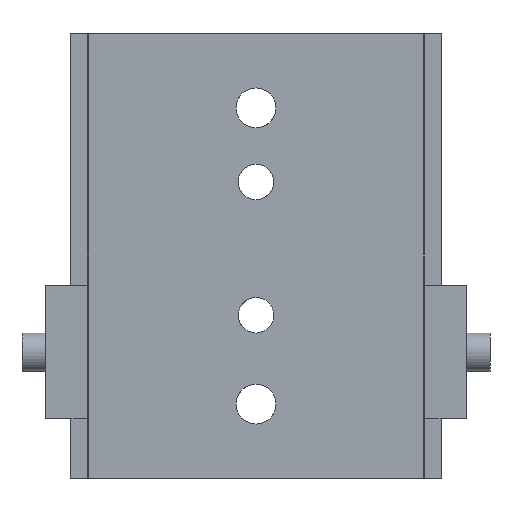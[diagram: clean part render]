
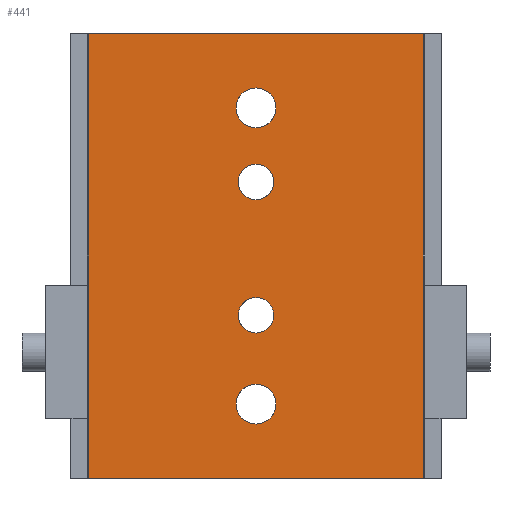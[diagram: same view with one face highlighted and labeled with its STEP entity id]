
A CAD part, front view. The second image highlights one B-rep face of the part: STEP entity #441.
In plain terms, the highlighted planar face has unit normal (0, -1, 0).
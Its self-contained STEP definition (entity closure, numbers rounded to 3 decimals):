
#77=CARTESIAN_POINT('Vertex',(-590.473,748.188,31.75)) ;
#80=CARTESIAN_POINT('Axis2P3D Location',(-590.473,748.188,25.)) ;
#84=CARTESIAN_POINT('Vertex',(-597.223,748.188,25.)) ;
#87=CARTESIAN_POINT('Axis2P3D Location',(-590.473,748.188,25.)) ;
#91=CARTESIAN_POINT('Vertex',(-590.473,748.188,18.25)) ;
#273=CARTESIAN_POINT('Axis2P3D Location',(-590.473,748.188,25.)) ;
#277=CARTESIAN_POINT('Vertex',(-583.723,748.188,25.)) ;
#280=CARTESIAN_POINT('Axis2P3D Location',(-590.473,748.188,25.)) ;
#294=CARTESIAN_POINT('Axis2P3D Location',(-646.973,748.188,150.)) ;
#299=CARTESIAN_POINT('Line Origine',(-590.473,748.188,0.)) ;
#303=CARTESIAN_POINT('Vertex',(-646.973,748.188,0.)) ;
#305=CARTESIAN_POINT('Vertex',(-533.973,748.188,0.)) ;
#308=CARTESIAN_POINT('Line Origine',(-533.973,748.188,75.)) ;
#312=CARTESIAN_POINT('Vertex',(-533.973,748.188,150.)) ;
#315=CARTESIAN_POINT('Line Origine',(-590.473,748.188,150.)) ;
#319=CARTESIAN_POINT('Vertex',(-646.973,748.188,150.)) ;
#322=CARTESIAN_POINT('Line Origine',(-646.973,748.188,75.)) ;
#333=CARTESIAN_POINT('Axis2P3D Location',(-590.473,748.188,100.)) ;
#337=CARTESIAN_POINT('Vertex',(-584.473,748.188,100.)) ;
#339=CARTESIAN_POINT('Vertex',(-590.473,748.188,94.)) ;
#342=CARTESIAN_POINT('Axis2P3D Location',(-590.473,748.188,100.)) ;
#346=CARTESIAN_POINT('Vertex',(-596.473,748.188,100.)) ;
#349=CARTESIAN_POINT('Axis2P3D Location',(-590.473,748.188,100.)) ;
#353=CARTESIAN_POINT('Vertex',(-590.473,748.188,106.)) ;
#356=CARTESIAN_POINT('Axis2P3D Location',(-590.473,748.188,100.)) ;
#367=CARTESIAN_POINT('Axis2P3D Location',(-590.473,748.188,55.)) ;
#371=CARTESIAN_POINT('Vertex',(-584.473,748.188,55.)) ;
#373=CARTESIAN_POINT('Vertex',(-590.473,748.188,49.)) ;
#376=CARTESIAN_POINT('Axis2P3D Location',(-590.473,748.188,55.)) ;
#380=CARTESIAN_POINT('Vertex',(-596.473,748.188,55.)) ;
#383=CARTESIAN_POINT('Axis2P3D Location',(-590.473,748.188,55.)) ;
#387=CARTESIAN_POINT('Vertex',(-590.473,748.188,61.)) ;
#390=CARTESIAN_POINT('Axis2P3D Location',(-590.473,748.188,55.)) ;
#401=CARTESIAN_POINT('Axis2P3D Location',(-590.473,748.188,125.)) ;
#405=CARTESIAN_POINT('Vertex',(-583.723,748.188,125.)) ;
#407=CARTESIAN_POINT('Vertex',(-590.473,748.188,118.25)) ;
#410=CARTESIAN_POINT('Axis2P3D Location',(-590.473,748.188,125.)) ;
#414=CARTESIAN_POINT('Vertex',(-597.223,748.188,125.)) ;
#417=CARTESIAN_POINT('Axis2P3D Location',(-590.473,748.188,125.)) ;
#421=CARTESIAN_POINT('Vertex',(-590.473,748.188,131.75)) ;
#424=CARTESIAN_POINT('Axis2P3D Location',(-590.473,748.188,125.)) ;
#81=DIRECTION('Axis2P3D Direction',(0.,-1.,0.)) ;
#88=DIRECTION('Axis2P3D Direction',(0.,-1.,0.)) ;
#274=DIRECTION('Axis2P3D Direction',(0.,-1.,0.)) ;
#281=DIRECTION('Axis2P3D Direction',(0.,-1.,0.)) ;
#295=DIRECTION('Axis2P3D Direction',(0.,1.,0.)) ;
#296=DIRECTION('Axis2P3D XDirection',(0.,-0.,1.)) ;
#300=DIRECTION('Vector Direction',(1.,0.,0.)) ;
#309=DIRECTION('Vector Direction',(0.,0.,-1.)) ;
#316=DIRECTION('Vector Direction',(1.,0.,0.)) ;
#323=DIRECTION('Vector Direction',(0.,0.,-1.)) ;
#334=DIRECTION('Axis2P3D Direction',(0.,1.,0.)) ;
#343=DIRECTION('Axis2P3D Direction',(0.,1.,0.)) ;
#350=DIRECTION('Axis2P3D Direction',(0.,1.,0.)) ;
#357=DIRECTION('Axis2P3D Direction',(0.,1.,0.)) ;
#368=DIRECTION('Axis2P3D Direction',(0.,1.,0.)) ;
#377=DIRECTION('Axis2P3D Direction',(0.,1.,0.)) ;
#384=DIRECTION('Axis2P3D Direction',(0.,1.,0.)) ;
#391=DIRECTION('Axis2P3D Direction',(0.,1.,0.)) ;
#402=DIRECTION('Axis2P3D Direction',(0.,1.,0.)) ;
#411=DIRECTION('Axis2P3D Direction',(0.,1.,0.)) ;
#418=DIRECTION('Axis2P3D Direction',(0.,1.,0.)) ;
#425=DIRECTION('Axis2P3D Direction',(0.,1.,0.)) ;
#82=AXIS2_PLACEMENT_3D('Circle Axis2P3D',#80,#81,$) ;
#89=AXIS2_PLACEMENT_3D('Circle Axis2P3D',#87,#88,$) ;
#275=AXIS2_PLACEMENT_3D('Circle Axis2P3D',#273,#274,$) ;
#282=AXIS2_PLACEMENT_3D('Circle Axis2P3D',#280,#281,$) ;
#297=AXIS2_PLACEMENT_3D('Plane Axis2P3D',#294,#295,#296) ;
#335=AXIS2_PLACEMENT_3D('Circle Axis2P3D',#333,#334,$) ;
#344=AXIS2_PLACEMENT_3D('Circle Axis2P3D',#342,#343,$) ;
#351=AXIS2_PLACEMENT_3D('Circle Axis2P3D',#349,#350,$) ;
#358=AXIS2_PLACEMENT_3D('Circle Axis2P3D',#356,#357,$) ;
#369=AXIS2_PLACEMENT_3D('Circle Axis2P3D',#367,#368,$) ;
#378=AXIS2_PLACEMENT_3D('Circle Axis2P3D',#376,#377,$) ;
#385=AXIS2_PLACEMENT_3D('Circle Axis2P3D',#383,#384,$) ;
#392=AXIS2_PLACEMENT_3D('Circle Axis2P3D',#390,#391,$) ;
#403=AXIS2_PLACEMENT_3D('Circle Axis2P3D',#401,#402,$) ;
#412=AXIS2_PLACEMENT_3D('Circle Axis2P3D',#410,#411,$) ;
#419=AXIS2_PLACEMENT_3D('Circle Axis2P3D',#417,#418,$) ;
#426=AXIS2_PLACEMENT_3D('Circle Axis2P3D',#424,#425,$) ;
#328=ORIENTED_EDGE('',*,*,#307,.T.) ;
#329=ORIENTED_EDGE('',*,*,#314,.F.) ;
#330=ORIENTED_EDGE('',*,*,#321,.F.) ;
#331=ORIENTED_EDGE('',*,*,#326,.T.) ;
#362=ORIENTED_EDGE('',*,*,#341,.T.) ;
#363=ORIENTED_EDGE('',*,*,#348,.T.) ;
#364=ORIENTED_EDGE('',*,*,#355,.T.) ;
#365=ORIENTED_EDGE('',*,*,#360,.T.) ;
#396=ORIENTED_EDGE('',*,*,#375,.T.) ;
#397=ORIENTED_EDGE('',*,*,#382,.T.) ;
#398=ORIENTED_EDGE('',*,*,#389,.T.) ;
#399=ORIENTED_EDGE('',*,*,#394,.T.) ;
#430=ORIENTED_EDGE('',*,*,#409,.T.) ;
#431=ORIENTED_EDGE('',*,*,#416,.T.) ;
#432=ORIENTED_EDGE('',*,*,#423,.T.) ;
#433=ORIENTED_EDGE('',*,*,#428,.T.) ;
#436=ORIENTED_EDGE('',*,*,#279,.T.) ;
#437=ORIENTED_EDGE('',*,*,#93,.T.) ;
#438=ORIENTED_EDGE('',*,*,#86,.T.) ;
#439=ORIENTED_EDGE('',*,*,#284,.T.) ;
#366=FACE_BOUND('',#361,.T.) ;
#400=FACE_BOUND('',#395,.T.) ;
#434=FACE_BOUND('',#429,.T.) ;
#440=FACE_BOUND('',#435,.T.) ;
#301=VECTOR('Line Direction',#300,1.) ;
#310=VECTOR('Line Direction',#309,1.) ;
#317=VECTOR('Line Direction',#316,1.) ;
#324=VECTOR('Line Direction',#323,1.) ;
#441=ADVANCED_FACE('A945-01-1215-01-S-BC',(#332,#366,#400,#434,#440),#298,.F.) ;
#83=CIRCLE('generated circle',#82,6.75) ;
#90=CIRCLE('generated circle',#89,6.75) ;
#276=CIRCLE('generated circle',#275,6.75) ;
#283=CIRCLE('generated circle',#282,6.75) ;
#336=CIRCLE('generated circle',#335,6.) ;
#345=CIRCLE('generated circle',#344,6.) ;
#352=CIRCLE('generated circle',#351,6.) ;
#359=CIRCLE('generated circle',#358,6.) ;
#370=CIRCLE('generated circle',#369,6.) ;
#379=CIRCLE('generated circle',#378,6.) ;
#386=CIRCLE('generated circle',#385,6.) ;
#393=CIRCLE('generated circle',#392,6.) ;
#404=CIRCLE('generated circle',#403,6.75) ;
#413=CIRCLE('generated circle',#412,6.75) ;
#420=CIRCLE('generated circle',#419,6.75) ;
#427=CIRCLE('generated circle',#426,6.75) ;
#86=EDGE_CURVE('',#85,#78,#83,.F.) ;
#93=EDGE_CURVE('',#92,#85,#90,.F.) ;
#279=EDGE_CURVE('',#278,#92,#276,.F.) ;
#284=EDGE_CURVE('',#78,#278,#283,.F.) ;
#307=EDGE_CURVE('',#304,#306,#302,.T.) ;
#314=EDGE_CURVE('',#313,#306,#311,.T.) ;
#321=EDGE_CURVE('',#320,#313,#318,.T.) ;
#326=EDGE_CURVE('',#320,#304,#325,.T.) ;
#341=EDGE_CURVE('',#338,#340,#336,.T.) ;
#348=EDGE_CURVE('',#340,#347,#345,.T.) ;
#355=EDGE_CURVE('',#347,#354,#352,.T.) ;
#360=EDGE_CURVE('',#354,#338,#359,.T.) ;
#375=EDGE_CURVE('',#372,#374,#370,.T.) ;
#382=EDGE_CURVE('',#374,#381,#379,.T.) ;
#389=EDGE_CURVE('',#381,#388,#386,.T.) ;
#394=EDGE_CURVE('',#388,#372,#393,.T.) ;
#409=EDGE_CURVE('',#406,#408,#404,.T.) ;
#416=EDGE_CURVE('',#408,#415,#413,.T.) ;
#423=EDGE_CURVE('',#415,#422,#420,.T.) ;
#428=EDGE_CURVE('',#422,#406,#427,.T.) ;
#327=EDGE_LOOP('',(#328,#329,#330,#331)) ;
#361=EDGE_LOOP('',(#362,#363,#364,#365)) ;
#395=EDGE_LOOP('',(#396,#397,#398,#399)) ;
#429=EDGE_LOOP('',(#430,#431,#432,#433)) ;
#435=EDGE_LOOP('',(#436,#437,#438,#439)) ;
#332=FACE_OUTER_BOUND('',#327,.T.) ;
#302=LINE('Line',#299,#301) ;
#311=LINE('Line',#308,#310) ;
#318=LINE('Line',#315,#317) ;
#325=LINE('Line',#322,#324) ;
#298=PLANE('Plane',#297) ;
#78=VERTEX_POINT('',#77) ;
#85=VERTEX_POINT('',#84) ;
#92=VERTEX_POINT('',#91) ;
#278=VERTEX_POINT('',#277) ;
#304=VERTEX_POINT('',#303) ;
#306=VERTEX_POINT('',#305) ;
#313=VERTEX_POINT('',#312) ;
#320=VERTEX_POINT('',#319) ;
#338=VERTEX_POINT('',#337) ;
#340=VERTEX_POINT('',#339) ;
#347=VERTEX_POINT('',#346) ;
#354=VERTEX_POINT('',#353) ;
#372=VERTEX_POINT('',#371) ;
#374=VERTEX_POINT('',#373) ;
#381=VERTEX_POINT('',#380) ;
#388=VERTEX_POINT('',#387) ;
#406=VERTEX_POINT('',#405) ;
#408=VERTEX_POINT('',#407) ;
#415=VERTEX_POINT('',#414) ;
#422=VERTEX_POINT('',#421) ;
